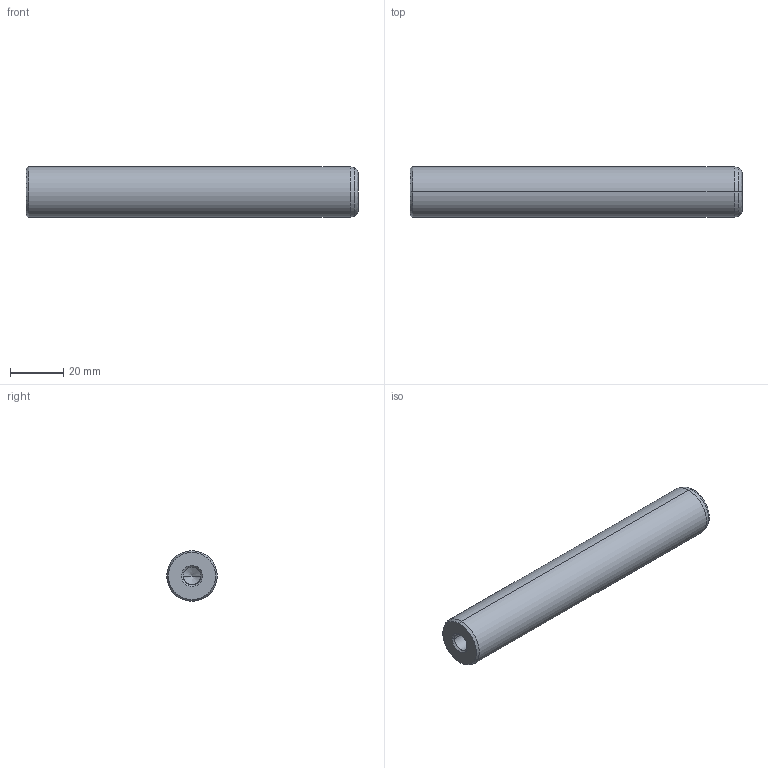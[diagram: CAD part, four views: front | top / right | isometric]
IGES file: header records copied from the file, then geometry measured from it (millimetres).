
Start section: START RECORD GO HERE.
Global section: file name: 720-19x125.igs; native system: DASSAULT SYSTEMES CATIA V5 R20 - www.3ds.com; preprocessor: CATIA Version 5 Release 20 ; author: Utente; organization: NB04-ASUS; date: 20210101.140835; units: millimetre
Bounding box: 125 x 19 x 19 mm (x, y, z)
Surface area: 8926.5 mm2 (no closed solid volume)
Topology: 0 solids, 0 shells, 22 faces, 120 edges, 116 vertices
Faces by surface type: revolution 20, plane 2
